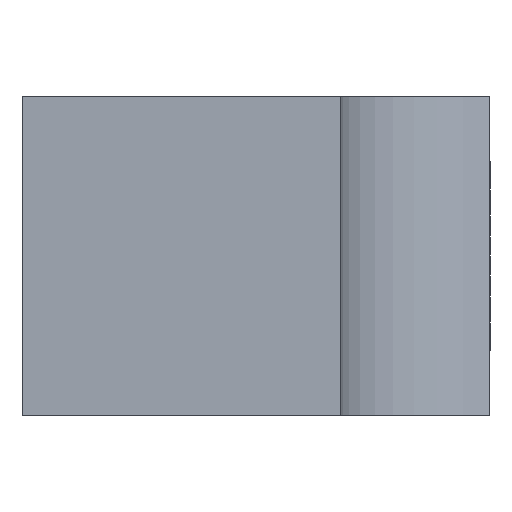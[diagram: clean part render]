
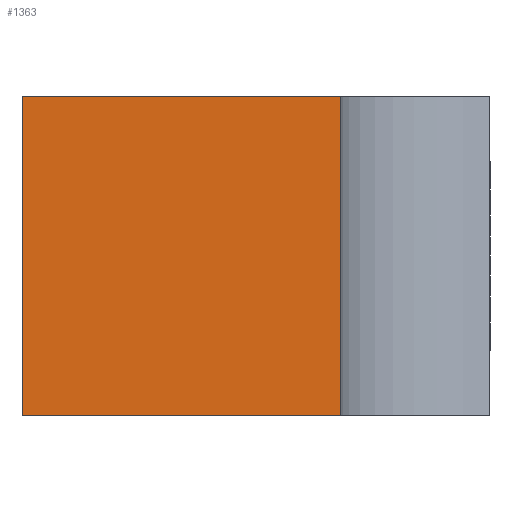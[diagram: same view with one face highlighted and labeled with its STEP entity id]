
A CAD part, left-side view. The second image highlights one B-rep face of the part: STEP entity #1363.
In plain terms, the highlighted planar face has unit normal (-1, 0, 0).
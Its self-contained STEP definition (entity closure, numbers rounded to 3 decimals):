
#6 = EDGE_CURVE ( 'NONE', #1736, #731, #1238, .T. ) ;
#61 = ORIENTED_EDGE ( 'NONE', *, *, #6, .F. ) ;
#113 = DIRECTION ( 'NONE',  ( 0., -1., 0. ) ) ;
#177 = DIRECTION ( 'NONE',  ( 0., 0., -1. ) ) ;
#238 = EDGE_CURVE ( 'NONE', #1773, #1736, #1401, .T. ) ;
#252 = CARTESIAN_POINT ( 'NONE',  ( -235., 69.9, 47.5 ) ) ;
#274 = CARTESIAN_POINT ( 'NONE',  ( -235., 22.3, 47.5 ) ) ;
#303 = ORIENTED_EDGE ( 'NONE', *, *, #238, .F. ) ;
#341 = CARTESIAN_POINT ( 'NONE',  ( -235., 69.9, 0. ) ) ;
#354 = CARTESIAN_POINT ( 'NONE',  ( -235., 22.3, 0. ) ) ;
#367 = CARTESIAN_POINT ( 'NONE',  ( -235., 22.3, 47.5 ) ) ;
#436 = EDGE_LOOP ( 'NONE', ( #2110, #61, #303, #1820 ) ) ;
#611 = DIRECTION ( 'NONE',  ( 0., 0., -1. ) ) ;
#731 = VERTEX_POINT ( 'NONE', #354 ) ;
#846 = VECTOR ( 'NONE', #611, 1000. ) ;
#1229 = DIRECTION ( 'NONE',  ( 0., -1., 0. ) ) ;
#1238 = LINE ( 'NONE', #2233, #846 ) ;
#1265 = VECTOR ( 'NONE', #113, 1000. ) ;
#1342 = VECTOR ( 'NONE', #1808, 1000. ) ;
#1363 = ADVANCED_FACE ( 'NONE', ( #2116 ), #1731, .F. ) ;
#1385 = CARTESIAN_POINT ( 'NONE',  ( -235., 69.9, 47.5 ) ) ;
#1401 = LINE ( 'NONE', #1425, #1265 ) ;
#1425 = CARTESIAN_POINT ( 'NONE',  ( -235., 22.3, 47.5 ) ) ;
#1731 = PLANE ( 'NONE',  #2129 ) ;
#1736 = VERTEX_POINT ( 'NONE', #274 ) ;
#1746 = LINE ( 'NONE', #2160, #2273 ) ;
#1773 = VERTEX_POINT ( 'NONE', #1385 ) ;
#1794 = LINE ( 'NONE', #252, #1342 ) ;
#1808 = DIRECTION ( 'NONE',  ( 0., 0., -1. ) ) ;
#1820 = ORIENTED_EDGE ( 'NONE', *, *, #2384, .T. ) ;
#2095 = VERTEX_POINT ( 'NONE', #341 ) ;
#2110 = ORIENTED_EDGE ( 'NONE', *, *, #2325, .T. ) ;
#2116 = FACE_OUTER_BOUND ( 'NONE', #436, .T. ) ;
#2129 = AXIS2_PLACEMENT_3D ( 'NONE', #367, #2539, #177 ) ;
#2160 = CARTESIAN_POINT ( 'NONE',  ( -235., 22.3, 0. ) ) ;
#2233 = CARTESIAN_POINT ( 'NONE',  ( -235., 22.3, 47.5 ) ) ;
#2273 = VECTOR ( 'NONE', #1229, 1000. ) ;
#2325 = EDGE_CURVE ( 'NONE', #2095, #731, #1746, .T. ) ;
#2384 = EDGE_CURVE ( 'NONE', #1773, #2095, #1794, .T. ) ;
#2539 = DIRECTION ( 'NONE',  ( 1., 0., 0. ) ) ;
